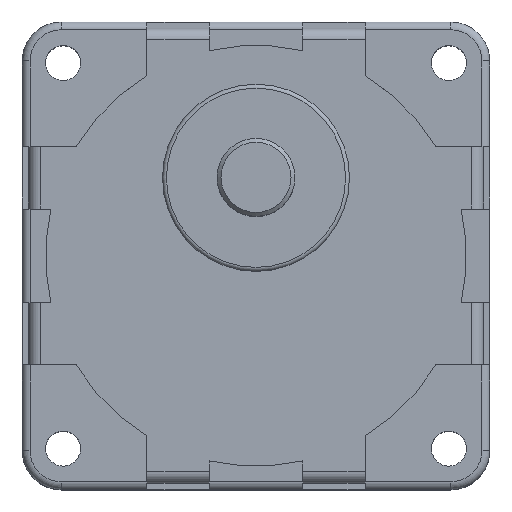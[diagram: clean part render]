
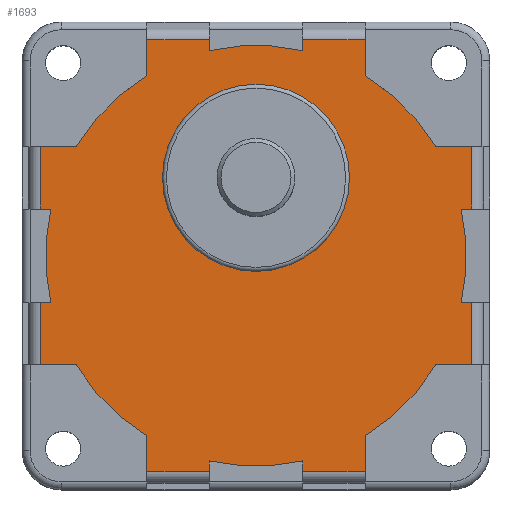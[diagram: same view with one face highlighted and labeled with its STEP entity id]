
A CAD part, top view. The second image highlights one B-rep face of the part: STEP entity #1693.
In plain terms, the highlighted planar face has unit normal (0, 0, 1).
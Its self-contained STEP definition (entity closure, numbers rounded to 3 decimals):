
#25=LINE('',#2548,#188);
#29=LINE('',#2560,#192);
#31=LINE('',#2566,#194);
#32=LINE('',#2570,#195);
#33=LINE('',#2572,#196);
#34=LINE('',#2574,#197);
#35=LINE('',#2578,#198);
#36=LINE('',#2580,#199);
#37=LINE('',#2582,#200);
#38=LINE('',#2586,#201);
#39=LINE('',#2588,#202);
#40=LINE('',#2590,#203);
#41=LINE('',#2594,#204);
#42=LINE('',#2596,#205);
#43=LINE('',#2598,#206);
#44=LINE('',#2602,#207);
#45=LINE('',#2604,#208);
#46=LINE('',#2606,#209);
#47=LINE('',#2610,#210);
#48=LINE('',#2612,#211);
#49=LINE('',#2614,#212);
#50=LINE('',#2617,#213);
#51=LINE('',#2619,#214);
#52=LINE('',#2622,#215);
#188=VECTOR('',#2020,8.);
#192=VECTOR('',#2030,8.);
#194=VECTOR('',#2036,4.613);
#195=VECTOR('',#2039,4.613);
#196=VECTOR('',#2040,8.);
#197=VECTOR('',#2041,1.375);
#198=VECTOR('',#2044,1.375);
#199=VECTOR('',#2045,8.);
#200=VECTOR('',#2046,4.613);
#201=VECTOR('',#2049,4.613);
#202=VECTOR('',#2050,8.);
#203=VECTOR('',#2051,1.375);
#204=VECTOR('',#2054,1.375);
#205=VECTOR('',#2055,8.);
#206=VECTOR('',#2056,4.613);
#207=VECTOR('',#2059,4.613);
#208=VECTOR('',#2060,8.);
#209=VECTOR('',#2061,1.375);
#210=VECTOR('',#2064,1.375);
#211=VECTOR('',#2065,8.);
#212=VECTOR('',#2066,4.613);
#213=VECTOR('',#2069,4.613);
#214=VECTOR('',#2070,1.375);
#215=VECTOR('',#2073,1.375);
#350=PLANE('',#1810);
#445=FACE_BOUND('',#577,.T.);
#469=FACE_OUTER_BOUND('',#576,.T.);
#576=EDGE_LOOP('',(#1218,#1219,#1220,#1221,#1222,#1223,#1224,#1225,#1226,
#1227,#1228,#1229,#1230,#1231,#1232,#1233,#1234,#1235,#1236,#1237,#1238,
#1239,#1240,#1241,#1242,#1243,#1244,#1245,#1246,#1247,#1248,#1249));
#577=EDGE_LOOP('',(#1250));
#695=CIRCLE('',#1811,27.);
#696=CIRCLE('',#1812,27.);
#697=CIRCLE('',#1813,27.);
#698=CIRCLE('',#1814,27.);
#699=CIRCLE('',#1815,27.);
#700=CIRCLE('',#1816,27.);
#701=CIRCLE('',#1817,27.);
#702=CIRCLE('',#1818,27.);
#703=CIRCLE('',#1819,12.);
#781=VERTEX_POINT('',#2541);
#784=VERTEX_POINT('',#2546);
#788=VERTEX_POINT('',#2557);
#789=VERTEX_POINT('',#2559);
#791=VERTEX_POINT('',#2565);
#792=VERTEX_POINT('',#2567);
#793=VERTEX_POINT('',#2569);
#794=VERTEX_POINT('',#2571);
#795=VERTEX_POINT('',#2573);
#796=VERTEX_POINT('',#2575);
#797=VERTEX_POINT('',#2577);
#798=VERTEX_POINT('',#2579);
#799=VERTEX_POINT('',#2581);
#800=VERTEX_POINT('',#2583);
#801=VERTEX_POINT('',#2585);
#802=VERTEX_POINT('',#2587);
#803=VERTEX_POINT('',#2589);
#804=VERTEX_POINT('',#2591);
#805=VERTEX_POINT('',#2593);
#806=VERTEX_POINT('',#2595);
#807=VERTEX_POINT('',#2597);
#808=VERTEX_POINT('',#2599);
#809=VERTEX_POINT('',#2601);
#810=VERTEX_POINT('',#2603);
#811=VERTEX_POINT('',#2605);
#812=VERTEX_POINT('',#2607);
#813=VERTEX_POINT('',#2609);
#814=VERTEX_POINT('',#2611);
#815=VERTEX_POINT('',#2613);
#816=VERTEX_POINT('',#2615);
#817=VERTEX_POINT('',#2618);
#818=VERTEX_POINT('',#2620);
#819=VERTEX_POINT('',#2623);
#954=EDGE_CURVE('',#784,#781,#25,.T.);
#959=EDGE_CURVE('',#788,#789,#29,.T.);
#962=EDGE_CURVE('',#784,#791,#31,.T.);
#963=EDGE_CURVE('',#792,#791,#695,.T.);
#964=EDGE_CURVE('',#793,#792,#32,.T.);
#965=EDGE_CURVE('',#794,#793,#33,.T.);
#966=EDGE_CURVE('',#795,#794,#34,.T.);
#967=EDGE_CURVE('',#796,#795,#696,.T.);
#968=EDGE_CURVE('',#796,#797,#35,.T.);
#969=EDGE_CURVE('',#798,#797,#36,.T.);
#970=EDGE_CURVE('',#798,#799,#37,.T.);
#971=EDGE_CURVE('',#800,#799,#697,.T.);
#972=EDGE_CURVE('',#801,#800,#38,.T.);
#973=EDGE_CURVE('',#802,#801,#39,.T.);
#974=EDGE_CURVE('',#803,#802,#40,.T.);
#975=EDGE_CURVE('',#804,#803,#698,.T.);
#976=EDGE_CURVE('',#804,#805,#41,.T.);
#977=EDGE_CURVE('',#806,#805,#42,.T.);
#978=EDGE_CURVE('',#806,#807,#43,.T.);
#979=EDGE_CURVE('',#808,#807,#699,.T.);
#980=EDGE_CURVE('',#809,#808,#44,.T.);
#981=EDGE_CURVE('',#810,#809,#45,.T.);
#982=EDGE_CURVE('',#811,#810,#46,.T.);
#983=EDGE_CURVE('',#812,#811,#700,.T.);
#984=EDGE_CURVE('',#812,#813,#47,.T.);
#985=EDGE_CURVE('',#814,#813,#48,.T.);
#986=EDGE_CURVE('',#814,#815,#49,.T.);
#987=EDGE_CURVE('',#816,#815,#701,.T.);
#988=EDGE_CURVE('',#789,#816,#50,.T.);
#989=EDGE_CURVE('',#817,#788,#51,.T.);
#990=EDGE_CURVE('',#818,#817,#702,.T.);
#991=EDGE_CURVE('',#818,#781,#52,.T.);
#992=EDGE_CURVE('',#819,#819,#703,.T.);
#1218=ORIENTED_EDGE('',*,*,#954,.F.);
#1219=ORIENTED_EDGE('',*,*,#962,.T.);
#1220=ORIENTED_EDGE('',*,*,#963,.F.);
#1221=ORIENTED_EDGE('',*,*,#964,.F.);
#1222=ORIENTED_EDGE('',*,*,#965,.F.);
#1223=ORIENTED_EDGE('',*,*,#966,.F.);
#1224=ORIENTED_EDGE('',*,*,#967,.F.);
#1225=ORIENTED_EDGE('',*,*,#968,.T.);
#1226=ORIENTED_EDGE('',*,*,#969,.F.);
#1227=ORIENTED_EDGE('',*,*,#970,.T.);
#1228=ORIENTED_EDGE('',*,*,#971,.F.);
#1229=ORIENTED_EDGE('',*,*,#972,.F.);
#1230=ORIENTED_EDGE('',*,*,#973,.F.);
#1231=ORIENTED_EDGE('',*,*,#974,.F.);
#1232=ORIENTED_EDGE('',*,*,#975,.F.);
#1233=ORIENTED_EDGE('',*,*,#976,.T.);
#1234=ORIENTED_EDGE('',*,*,#977,.F.);
#1235=ORIENTED_EDGE('',*,*,#978,.T.);
#1236=ORIENTED_EDGE('',*,*,#979,.F.);
#1237=ORIENTED_EDGE('',*,*,#980,.F.);
#1238=ORIENTED_EDGE('',*,*,#981,.F.);
#1239=ORIENTED_EDGE('',*,*,#982,.F.);
#1240=ORIENTED_EDGE('',*,*,#983,.F.);
#1241=ORIENTED_EDGE('',*,*,#984,.T.);
#1242=ORIENTED_EDGE('',*,*,#985,.F.);
#1243=ORIENTED_EDGE('',*,*,#986,.T.);
#1244=ORIENTED_EDGE('',*,*,#987,.F.);
#1245=ORIENTED_EDGE('',*,*,#988,.F.);
#1246=ORIENTED_EDGE('',*,*,#959,.F.);
#1247=ORIENTED_EDGE('',*,*,#989,.F.);
#1248=ORIENTED_EDGE('',*,*,#990,.F.);
#1249=ORIENTED_EDGE('',*,*,#991,.T.);
#1250=ORIENTED_EDGE('',*,*,#992,.T.);
#1693=ADVANCED_FACE('',(#469,#445),#350,.T.);
#1810=AXIS2_PLACEMENT_3D('',#2564,#2034,#2035);
#1811=AXIS2_PLACEMENT_3D('',#2568,#2037,#2038);
#1812=AXIS2_PLACEMENT_3D('',#2576,#2042,#2043);
#1813=AXIS2_PLACEMENT_3D('',#2584,#2047,#2048);
#1814=AXIS2_PLACEMENT_3D('',#2592,#2052,#2053);
#1815=AXIS2_PLACEMENT_3D('',#2600,#2057,#2058);
#1816=AXIS2_PLACEMENT_3D('',#2608,#2062,#2063);
#1817=AXIS2_PLACEMENT_3D('',#2616,#2067,#2068);
#1818=AXIS2_PLACEMENT_3D('',#2621,#2071,#2072);
#1819=AXIS2_PLACEMENT_3D('',#2624,#2074,#2075);
#2020=DIRECTION('',(0.,-1.,0.));
#2030=DIRECTION('',(0.,-1.,0.));
#2034=DIRECTION('center_axis',(0.,0.,1.));
#2035=DIRECTION('ref_axis',(1.,0.,0.));
#2036=DIRECTION('',(-1.,0.,0.));
#2037=DIRECTION('center_axis',(0.,0.,-1.));
#2038=DIRECTION('ref_axis',(-1.,0.,0.));
#2039=DIRECTION('',(0.,-1.,0.));
#2040=DIRECTION('',(1.,0.,0.));
#2041=DIRECTION('',(0.,1.,0.));
#2042=DIRECTION('center_axis',(0.,0.,-1.));
#2043=DIRECTION('ref_axis',(-1.,0.,0.));
#2044=DIRECTION('',(0.,1.,0.));
#2045=DIRECTION('',(1.,0.,0.));
#2046=DIRECTION('',(0.,-1.,0.));
#2047=DIRECTION('center_axis',(0.,0.,-1.));
#2048=DIRECTION('ref_axis',(-1.,0.,0.));
#2049=DIRECTION('',(1.,0.,0.));
#2050=DIRECTION('',(0.,1.,0.));
#2051=DIRECTION('',(-1.,0.,0.));
#2052=DIRECTION('center_axis',(0.,0.,-1.));
#2053=DIRECTION('ref_axis',(-1.,0.,0.));
#2054=DIRECTION('',(-1.,0.,0.));
#2055=DIRECTION('',(0.,1.,0.));
#2056=DIRECTION('',(1.,0.,0.));
#2057=DIRECTION('center_axis',(0.,0.,-1.));
#2058=DIRECTION('ref_axis',(-1.,0.,0.));
#2059=DIRECTION('',(0.,1.,0.));
#2060=DIRECTION('',(-1.,0.,0.));
#2061=DIRECTION('',(0.,-1.,0.));
#2062=DIRECTION('center_axis',(0.,0.,-1.));
#2063=DIRECTION('ref_axis',(-1.,0.,0.));
#2064=DIRECTION('',(0.,-1.,0.));
#2065=DIRECTION('',(-1.,0.,0.));
#2066=DIRECTION('',(0.,1.,0.));
#2067=DIRECTION('center_axis',(0.,0.,-1.));
#2068=DIRECTION('ref_axis',(-1.,0.,0.));
#2069=DIRECTION('',(-1.,0.,0.));
#2070=DIRECTION('',(1.,0.,0.));
#2071=DIRECTION('center_axis',(0.,0.,-1.));
#2072=DIRECTION('ref_axis',(-1.,0.,0.));
#2073=DIRECTION('',(1.,0.,0.));
#2074=DIRECTION('center_axis',(0.,0.,-1.));
#2075=DIRECTION('ref_axis',(1.,0.,0.));
#2541=CARTESIAN_POINT('',(27.7,6.,33.2));
#2546=CARTESIAN_POINT('',(27.7,14.,33.2));
#2548=CARTESIAN_POINT('',(27.7,7.,33.2));
#2557=CARTESIAN_POINT('',(27.7,-6.,33.2));
#2559=CARTESIAN_POINT('',(27.7,-14.,33.2));
#2560=CARTESIAN_POINT('',(27.7,-7.,33.2));
#2564=CARTESIAN_POINT('Origin',(0.,0.,33.2));
#2565=CARTESIAN_POINT('',(23.087,14.,33.2));
#2566=CARTESIAN_POINT('',(23.087,14.,33.2));
#2567=CARTESIAN_POINT('',(14.,23.087,33.2));
#2568=CARTESIAN_POINT('Origin',(0.,0.,33.2));
#2569=CARTESIAN_POINT('',(14.,27.7,33.2));
#2570=CARTESIAN_POINT('',(14.,23.087,33.2));
#2571=CARTESIAN_POINT('',(6.,27.7,33.2));
#2572=CARTESIAN_POINT('',(7.,27.7,33.2));
#2573=CARTESIAN_POINT('',(6.,26.325,33.2));
#2574=CARTESIAN_POINT('',(6.,30.,33.2));
#2575=CARTESIAN_POINT('',(-6.,26.325,33.2));
#2576=CARTESIAN_POINT('Origin',(0.,0.,33.2));
#2577=CARTESIAN_POINT('',(-6.,27.7,33.2));
#2578=CARTESIAN_POINT('',(-6.,30.,33.2));
#2579=CARTESIAN_POINT('',(-14.,27.7,33.2));
#2580=CARTESIAN_POINT('',(-7.,27.7,33.2));
#2581=CARTESIAN_POINT('',(-14.,23.087,33.2));
#2582=CARTESIAN_POINT('',(-14.,23.087,33.2));
#2583=CARTESIAN_POINT('',(-23.087,14.,33.2));
#2584=CARTESIAN_POINT('Origin',(0.,0.,33.2));
#2585=CARTESIAN_POINT('',(-27.7,14.,33.2));
#2586=CARTESIAN_POINT('',(-23.087,14.,33.2));
#2587=CARTESIAN_POINT('',(-27.7,6.,33.2));
#2588=CARTESIAN_POINT('',(-27.7,7.,33.2));
#2589=CARTESIAN_POINT('',(-26.325,6.,33.2));
#2590=CARTESIAN_POINT('',(-30.,6.,33.2));
#2591=CARTESIAN_POINT('',(-26.325,-6.,33.2));
#2592=CARTESIAN_POINT('Origin',(0.,0.,33.2));
#2593=CARTESIAN_POINT('',(-27.7,-6.,33.2));
#2594=CARTESIAN_POINT('',(-30.,-6.,33.2));
#2595=CARTESIAN_POINT('',(-27.7,-14.,33.2));
#2596=CARTESIAN_POINT('',(-27.7,-7.,33.2));
#2597=CARTESIAN_POINT('',(-23.087,-14.,33.2));
#2598=CARTESIAN_POINT('',(-23.087,-14.,33.2));
#2599=CARTESIAN_POINT('',(-14.,-23.087,33.2));
#2600=CARTESIAN_POINT('Origin',(0.,0.,33.2));
#2601=CARTESIAN_POINT('',(-14.,-27.7,33.2));
#2602=CARTESIAN_POINT('',(-14.,-23.087,33.2));
#2603=CARTESIAN_POINT('',(-6.,-27.7,33.2));
#2604=CARTESIAN_POINT('',(-7.,-27.7,33.2));
#2605=CARTESIAN_POINT('',(-6.,-26.325,33.2));
#2606=CARTESIAN_POINT('',(-6.,-30.,33.2));
#2607=CARTESIAN_POINT('',(6.,-26.325,33.2));
#2608=CARTESIAN_POINT('Origin',(0.,0.,33.2));
#2609=CARTESIAN_POINT('',(6.,-27.7,33.2));
#2610=CARTESIAN_POINT('',(6.,-30.,33.2));
#2611=CARTESIAN_POINT('',(14.,-27.7,33.2));
#2612=CARTESIAN_POINT('',(7.,-27.7,33.2));
#2613=CARTESIAN_POINT('',(14.,-23.087,33.2));
#2614=CARTESIAN_POINT('',(14.,-23.087,33.2));
#2615=CARTESIAN_POINT('',(23.087,-14.,33.2));
#2616=CARTESIAN_POINT('Origin',(0.,0.,33.2));
#2617=CARTESIAN_POINT('',(23.087,-14.,33.2));
#2618=CARTESIAN_POINT('',(26.325,-6.,33.2));
#2619=CARTESIAN_POINT('',(30.,-6.,33.2));
#2620=CARTESIAN_POINT('',(26.325,6.,33.2));
#2621=CARTESIAN_POINT('Origin',(0.,0.,33.2));
#2622=CARTESIAN_POINT('',(30.,6.,33.2));
#2623=CARTESIAN_POINT('',(-12.,10.,33.2));
#2624=CARTESIAN_POINT('Origin',(0.,10.,33.2));
